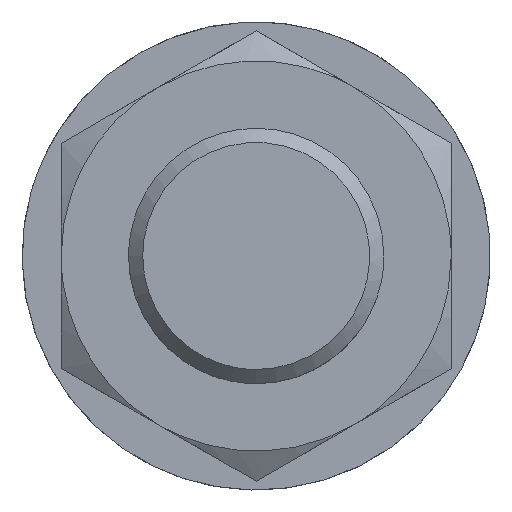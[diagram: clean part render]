
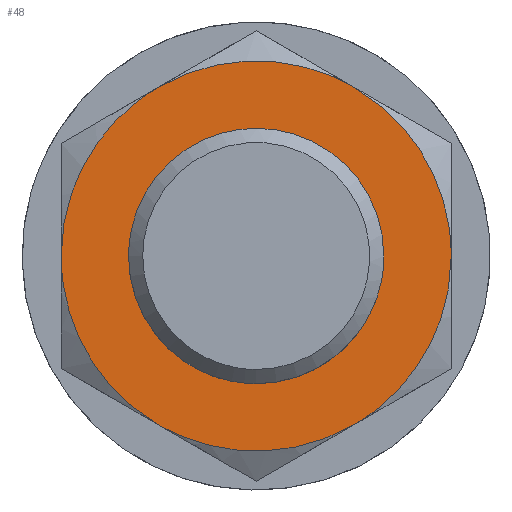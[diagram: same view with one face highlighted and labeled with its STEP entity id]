
A CAD part, left-side view. The second image highlights one B-rep face of the part: STEP entity #48.
In plain terms, the highlighted planar face has unit normal (-1, 0, 0).
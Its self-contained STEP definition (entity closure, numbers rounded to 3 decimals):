
#39=FACE_BOUND('',#135,.T.);
#48=ADVANCED_FACE('',(#90,#39),#655,.T.);
#90=FACE_OUTER_BOUND('',#134,.T.);
#134=EDGE_LOOP('',(#198,#199,#200,#201,#202,#203));
#135=EDGE_LOOP('',(#204,#205));
#198=ORIENTED_EDGE('',*,*,#399,.F.);
#199=ORIENTED_EDGE('',*,*,#401,.F.);
#200=ORIENTED_EDGE('',*,*,#402,.F.);
#201=ORIENTED_EDGE('',*,*,#400,.F.);
#202=ORIENTED_EDGE('',*,*,#398,.F.);
#203=ORIENTED_EDGE('',*,*,#397,.F.);
#204=ORIENTED_EDGE('',*,*,#387,.F.);
#205=ORIENTED_EDGE('',*,*,#385,.F.);
#385=EDGE_CURVE('',#600,#590,#510,.T.);
#387=EDGE_CURVE('',#590,#600,#511,.T.);
#397=EDGE_CURVE('',#594,#595,#519,.T.);
#398=EDGE_CURVE('',#595,#599,#520,.T.);
#399=EDGE_CURVE('',#596,#594,#521,.T.);
#400=EDGE_CURVE('',#599,#598,#522,.T.);
#401=EDGE_CURVE('',#597,#596,#523,.T.);
#402=EDGE_CURVE('',#598,#597,#524,.T.);
#510=(
BOUNDED_CURVE()
B_SPLINE_CURVE(2,(#1158,#1159,#1160,#1161,#1162),.UNSPECIFIED.,.F.,.F.)
B_SPLINE_CURVE_WITH_KNOTS((3,2,3),(56.549,84.823,113.097),
 .UNSPECIFIED.)
CURVE()
GEOMETRIC_REPRESENTATION_ITEM()
RATIONAL_B_SPLINE_CURVE((1.,0.707,1.,0.707,1.))
REPRESENTATION_ITEM('')
);
#511=(
BOUNDED_CURVE()
B_SPLINE_CURVE(2,(#1165,#1166,#1167,#1168,#1169),.UNSPECIFIED.,.F.,.F.)
B_SPLINE_CURVE_WITH_KNOTS((3,2,3),(0.,28.274,56.549),
 .UNSPECIFIED.)
CURVE()
GEOMETRIC_REPRESENTATION_ITEM()
RATIONAL_B_SPLINE_CURVE((1.,0.707,1.,0.707,1.))
REPRESENTATION_ITEM('')
);
#519=(
BOUNDED_CURVE()
B_SPLINE_CURVE(2,(#1207,#1208,#1209),.UNSPECIFIED.,.F.,.F.)
B_SPLINE_CURVE_WITH_KNOTS((3,3),(0.,28.798),.UNSPECIFIED.)
CURVE()
GEOMETRIC_REPRESENTATION_ITEM()
RATIONAL_B_SPLINE_CURVE((1.,0.866,1.))
REPRESENTATION_ITEM('')
);
#520=(
BOUNDED_CURVE()
B_SPLINE_CURVE(2,(#1210,#1211,#1212),.UNSPECIFIED.,.F.,.F.)
B_SPLINE_CURVE_WITH_KNOTS((3,3),(0.,28.798),.UNSPECIFIED.)
CURVE()
GEOMETRIC_REPRESENTATION_ITEM()
RATIONAL_B_SPLINE_CURVE((1.,0.866,1.))
REPRESENTATION_ITEM('')
);
#521=(
BOUNDED_CURVE()
B_SPLINE_CURVE(2,(#1213,#1214,#1215),.UNSPECIFIED.,.F.,.F.)
B_SPLINE_CURVE_WITH_KNOTS((3,3),(0.,28.798),.UNSPECIFIED.)
CURVE()
GEOMETRIC_REPRESENTATION_ITEM()
RATIONAL_B_SPLINE_CURVE((1.,0.866,1.))
REPRESENTATION_ITEM('')
);
#522=(
BOUNDED_CURVE()
B_SPLINE_CURVE(2,(#1216,#1217,#1218),.UNSPECIFIED.,.F.,.F.)
B_SPLINE_CURVE_WITH_KNOTS((3,3),(0.,28.798),.UNSPECIFIED.)
CURVE()
GEOMETRIC_REPRESENTATION_ITEM()
RATIONAL_B_SPLINE_CURVE((1.,0.866,1.))
REPRESENTATION_ITEM('')
);
#523=(
BOUNDED_CURVE()
B_SPLINE_CURVE(2,(#1219,#1220,#1221),.UNSPECIFIED.,.F.,.F.)
B_SPLINE_CURVE_WITH_KNOTS((3,3),(0.,28.798),.UNSPECIFIED.)
CURVE()
GEOMETRIC_REPRESENTATION_ITEM()
RATIONAL_B_SPLINE_CURVE((1.,0.866,1.))
REPRESENTATION_ITEM('')
);
#524=(
BOUNDED_CURVE()
B_SPLINE_CURVE(2,(#1222,#1223,#1224),.UNSPECIFIED.,.F.,.F.)
B_SPLINE_CURVE_WITH_KNOTS((3,3),(0.,28.798),.UNSPECIFIED.)
CURVE()
GEOMETRIC_REPRESENTATION_ITEM()
RATIONAL_B_SPLINE_CURVE((1.,0.866,1.))
REPRESENTATION_ITEM('')
);
#590=VERTEX_POINT('',#1126);
#594=VERTEX_POINT('',#1130);
#595=VERTEX_POINT('',#1131);
#596=VERTEX_POINT('',#1132);
#597=VERTEX_POINT('',#1133);
#598=VERTEX_POINT('',#1134);
#599=VERTEX_POINT('',#1135);
#600=VERTEX_POINT('',#1136);
#655=PLANE('',#769);
#769=AXIS2_PLACEMENT_3D('',#883,#795,$);
#795=DIRECTION('',(-1.,0.,0.));
#883=CARTESIAN_POINT('',(52.333,-33.12,-38.225));
#1126=CARTESIAN_POINT('',(52.333,18.,0.));
#1130=CARTESIAN_POINT('',(52.333,-13.75,-23.816));
#1131=CARTESIAN_POINT('',(52.333,13.75,-23.816));
#1132=CARTESIAN_POINT('',(52.333,-27.5,0.));
#1133=CARTESIAN_POINT('',(52.333,-13.75,23.816));
#1134=CARTESIAN_POINT('',(52.333,13.75,23.816));
#1135=CARTESIAN_POINT('',(52.333,27.5,0.));
#1136=CARTESIAN_POINT('',(52.333,-18.,0.));
#1158=CARTESIAN_POINT('',(52.333,-18.,0.));
#1159=CARTESIAN_POINT('',(52.333,-18.,18.));
#1160=CARTESIAN_POINT('',(52.333,0.,18.));
#1161=CARTESIAN_POINT('',(52.333,18.,18.));
#1162=CARTESIAN_POINT('',(52.333,18.,0.));
#1165=CARTESIAN_POINT('',(52.333,18.,0.));
#1166=CARTESIAN_POINT('',(52.333,18.,-18.));
#1167=CARTESIAN_POINT('',(52.333,0.,-18.));
#1168=CARTESIAN_POINT('',(52.333,-18.,-18.));
#1169=CARTESIAN_POINT('',(52.333,-18.,0.));
#1207=CARTESIAN_POINT('',(52.333,-13.75,-23.816));
#1208=CARTESIAN_POINT('',(52.333,0.,-31.754));
#1209=CARTESIAN_POINT('',(52.333,13.75,-23.816));
#1210=CARTESIAN_POINT('',(52.333,13.75,-23.816));
#1211=CARTESIAN_POINT('',(52.333,27.5,-15.877));
#1212=CARTESIAN_POINT('',(52.333,27.5,0.));
#1213=CARTESIAN_POINT('',(52.333,-27.5,0.));
#1214=CARTESIAN_POINT('',(52.333,-27.5,-15.877));
#1215=CARTESIAN_POINT('',(52.333,-13.75,-23.816));
#1216=CARTESIAN_POINT('',(52.333,27.5,0.));
#1217=CARTESIAN_POINT('',(52.333,27.5,15.877));
#1218=CARTESIAN_POINT('',(52.333,13.75,23.816));
#1219=CARTESIAN_POINT('',(52.333,-13.75,23.816));
#1220=CARTESIAN_POINT('',(52.333,-27.5,15.877));
#1221=CARTESIAN_POINT('',(52.333,-27.5,0.));
#1222=CARTESIAN_POINT('',(52.333,13.75,23.816));
#1223=CARTESIAN_POINT('',(52.333,0.,31.754));
#1224=CARTESIAN_POINT('',(52.333,-13.75,23.816));
